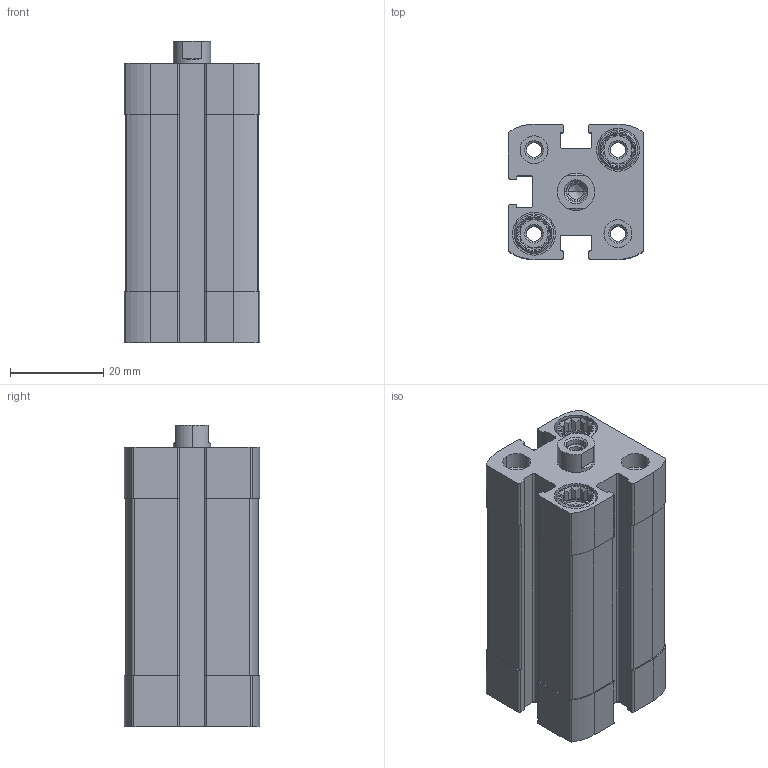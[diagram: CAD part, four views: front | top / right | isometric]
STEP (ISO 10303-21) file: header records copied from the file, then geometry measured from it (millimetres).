
FILE_DESCRIPTION (( 'STEP AP203' ), '1' );
FILE_NAME ('CCN16-25F.STEP', '2017-03-28T13:38:01', ( '' ), ( '' ), 'SwSTEP 2.0', 'SolidWorks 2016', '' );
FILE_SCHEMA (( 'CONFIG_CONTROL_DESIGN' ));
Length unit declared in the file: millimetre
Products named in the file (3): CCN-25--(Z); CCN-25_(KS); CCN16-25F
Assembly tree (2 placements, depth 2):
  CCN16-25F
    CCN-25--(Z)
    CCN-25_(KS)
Bounding box: 29 x 29 x 64.7 mm (x, y, z)
Volume: 35547.4 mm3; surface area: 18698.3 mm2
Topology: 2 solids, 2 shells, 363 faces, 944 edges, 619 vertices
Faces by surface type: plane 187, cylinder 134, cone 42
Entity records: 11561 total; most frequent: CARTESIAN_POINT 2223, DIRECTION 1904, ORIENTED_EDGE 1884, EDGE_CURVE 942, AXIS2_PLACEMENT_3D 692, VERTEX_POINT 619, VECTOR 520, LINE 520
